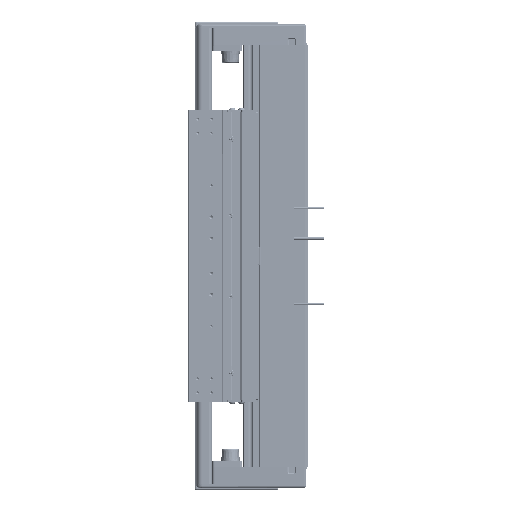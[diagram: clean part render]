
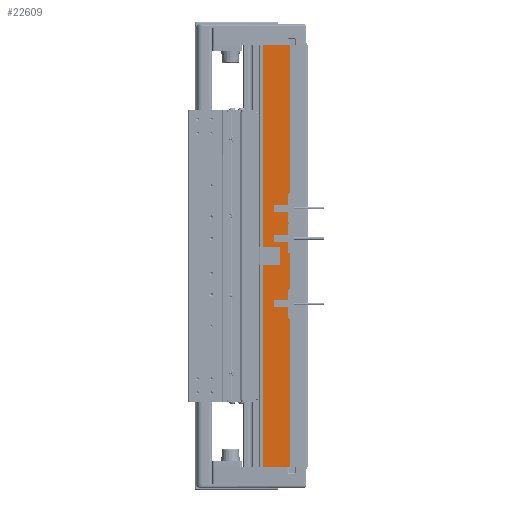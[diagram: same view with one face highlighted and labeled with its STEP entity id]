
A CAD part, left-side view. The second image highlights one B-rep face of the part: STEP entity #22609.
In plain terms, the highlighted planar face has unit normal (-1, 0, 0).
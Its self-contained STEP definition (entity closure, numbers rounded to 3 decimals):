
#6141 = DIRECTION ( 'NONE',  ( 0., 0., -1. ) ) ;
#7446 = CARTESIAN_POINT ( 'NONE',  ( -97.5, 36.95, -180. ) ) ;
#9976 = ORIENTED_EDGE ( 'NONE', *, *, #101860, .F. ) ;
#9996 = CARTESIAN_POINT ( 'NONE',  ( -97.5, 14.45, 180. ) ) ;
#10121 = DIRECTION ( 'NONE',  ( 1., 0., 0. ) ) ;
#13889 = LINE ( 'NONE', #93954, #47827 ) ;
#15458 = VECTOR ( 'NONE', #69601, 1000. ) ;
#16640 = CARTESIAN_POINT ( 'NONE',  ( -97.5, 14.45, -180. ) ) ;
#22609 = ADVANCED_FACE ( 'NONE', ( #97946 ), #87686, .F. ) ;
#27091 = VERTEX_POINT ( 'NONE', #72998 ) ;
#29246 = DIRECTION ( 'NONE',  ( 0., -1., 0. ) ) ;
#36065 = EDGE_LOOP ( 'NONE', ( #110628, #90256, #9976, #103676 ) ) ;
#37621 = LINE ( 'NONE', #77312, #15458 ) ;
#45657 = EDGE_CURVE ( 'NONE', #85349, #27091, #13889, .T. ) ;
#47233 = DIRECTION ( 'NONE',  ( 0., -1., 0. ) ) ;
#47827 = VECTOR ( 'NONE', #6141, 1000. ) ;
#63554 = AXIS2_PLACEMENT_3D ( 'NONE', #67206, #10121, #106333 ) ;
#67206 = CARTESIAN_POINT ( 'NONE',  ( -97.5, 36.95, 180. ) ) ;
#69601 = DIRECTION ( 'NONE',  ( 0., 0., -1. ) ) ;
#72998 = CARTESIAN_POINT ( 'NONE',  ( -97.5, 36.95, -180. ) ) ;
#76064 = CARTESIAN_POINT ( 'NONE',  ( -97.5, 36.95, 180. ) ) ;
#77312 = CARTESIAN_POINT ( 'NONE',  ( -97.5, 14.45, 180. ) ) ;
#84259 = VECTOR ( 'NONE', #29246, 1000. ) ;
#85349 = VERTEX_POINT ( 'NONE', #98697 ) ;
#87686 = PLANE ( 'NONE',  #63554 ) ;
#90256 = ORIENTED_EDGE ( 'NONE', *, *, #97079, .F. ) ;
#93954 = CARTESIAN_POINT ( 'NONE',  ( -97.5, 36.95, 180. ) ) ;
#95274 = LINE ( 'NONE', #7446, #84259 ) ;
#96564 = LINE ( 'NONE', #76064, #98190 ) ;
#97079 = EDGE_CURVE ( 'NONE', #100567, #125152, #37621, .T. ) ;
#97946 = FACE_OUTER_BOUND ( 'NONE', #36065, .T. ) ;
#98190 = VECTOR ( 'NONE', #47233, 1000. ) ;
#98697 = CARTESIAN_POINT ( 'NONE',  ( -97.5, 36.95, 180. ) ) ;
#100567 = VERTEX_POINT ( 'NONE', #9996 ) ;
#101860 = EDGE_CURVE ( 'NONE', #85349, #100567, #96564, .T. ) ;
#103676 = ORIENTED_EDGE ( 'NONE', *, *, #45657, .T. ) ;
#104613 = EDGE_CURVE ( 'NONE', #27091, #125152, #95274, .T. ) ;
#106333 = DIRECTION ( 'NONE',  ( 0., 1., 0. ) ) ;
#110628 = ORIENTED_EDGE ( 'NONE', *, *, #104613, .T. ) ;
#125152 = VERTEX_POINT ( 'NONE', #16640 ) ;
